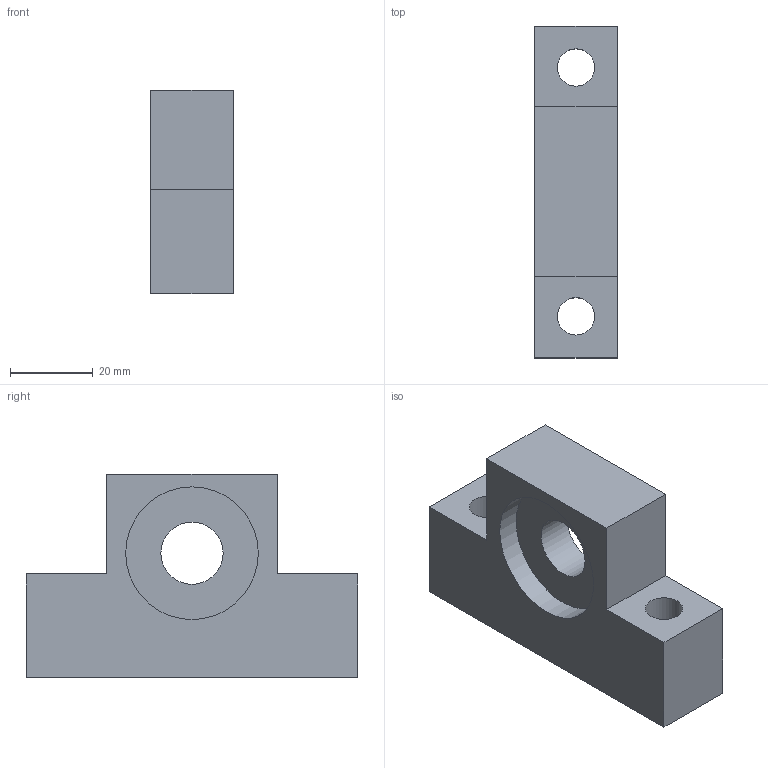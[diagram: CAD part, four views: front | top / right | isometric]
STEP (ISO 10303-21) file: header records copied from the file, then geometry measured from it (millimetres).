
FILE_DESCRIPTION(/* description */ (''),/* implementation_level */ '2;1');
FILE_NAME(/* name */ 'EF15-STP.stp',/* time_stamp */ '2019-11-18T09:59:58+08:00',/* author */ (''),/* organization */ (''),/* preprocessor_version */ 'ST-DEVELOPER v14',/* originating_system */ 'SIEMENS PLM Software NX 8.0',/* authorisation */ '');
FILE_SCHEMA (('AUTOMOTIVE_DESIGN { 1 0 10303 214 3 1 1 1 }'));
Length unit declared in the file: millimetre
Products named in the file (3): EF15-A; 6002; EF15
Assembly tree (2 placements, depth 2):
  EF15
    6002
    EF15-A
Bounding box: 20 x 80 x 49 mm (x, y, z)
Volume: 46062 mm3; surface area: 15273.3 mm2
Topology: 2 solids, 2 shells, 17 faces, 39 edges, 26 vertices
Faces by surface type: plane 12, cylinder 5
Full cylindrical faces by diameter (mm): 9 x2, 15 x1, 32 x2
Entity records: 542 total; most frequent: DIRECTION 84, CARTESIAN_POINT 80, ORIENTED_EDGE 68, EDGE_CURVE 34, EDGE_LOOP 30, AXIS2_PLACEMENT_3D 30, VERTEX_POINT 26, FACE_BOUND 25
